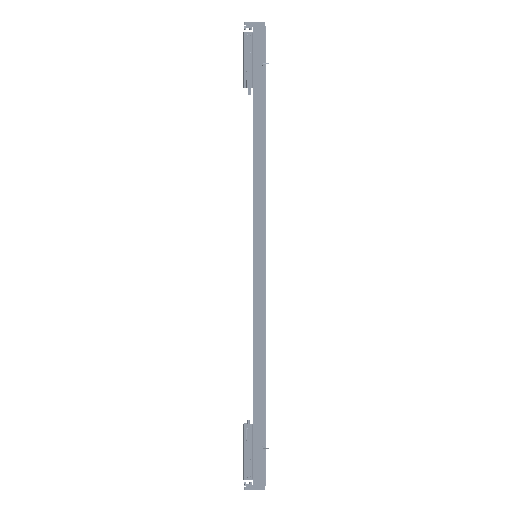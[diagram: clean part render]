
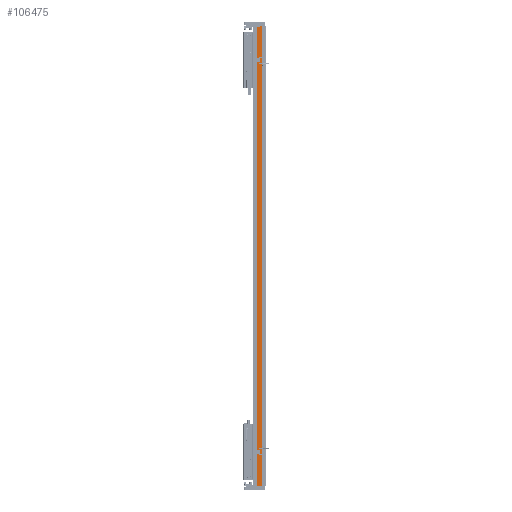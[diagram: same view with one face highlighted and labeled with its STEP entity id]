
A CAD part, left-side view. The second image highlights one B-rep face of the part: STEP entity #106475.
In plain terms, the highlighted planar face has unit normal (-1, 0, 0).
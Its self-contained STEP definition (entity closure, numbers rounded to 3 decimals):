
#2216 = DIRECTION ( 'NONE',  ( 0., -1., 0. ) ) ;
#5030 = EDGE_CURVE ( 'NONE', #30455, #17741, #72155, .T. ) ;
#5045 = ORIENTED_EDGE ( 'NONE', *, *, #5030, .F. ) ;
#6462 = EDGE_CURVE ( 'NONE', #108444, #17741, #64681, .T. ) ;
#8840 = DIRECTION ( 'NONE',  ( 0., 1., 0. ) ) ;
#11202 = ORIENTED_EDGE ( 'NONE', *, *, #92640, .T. ) ;
#17741 = VERTEX_POINT ( 'NONE', #27292 ) ;
#18996 = CARTESIAN_POINT ( 'NONE',  ( -82.5, 36.95, 1020. ) ) ;
#19073 = LINE ( 'NONE', #60523, #50309 ) ;
#20370 = CARTESIAN_POINT ( 'NONE',  ( -82.5, 14.45, 1020. ) ) ;
#20958 = LINE ( 'NONE', #103790, #103002 ) ;
#27292 = CARTESIAN_POINT ( 'NONE',  ( -82.5, 14.45, -1020. ) ) ;
#30455 = VERTEX_POINT ( 'NONE', #20370 ) ;
#40784 = FACE_OUTER_BOUND ( 'NONE', #81049, .T. ) ;
#42036 = DIRECTION ( 'NONE',  ( 0., -1., 0. ) ) ;
#50309 = VECTOR ( 'NONE', #101909, 1000. ) ;
#57174 = ORIENTED_EDGE ( 'NONE', *, *, #113455, .F. ) ;
#58551 = VECTOR ( 'NONE', #133956, 1000. ) ;
#60523 = CARTESIAN_POINT ( 'NONE',  ( -82.5, 36.95, 1020. ) ) ;
#64681 = LINE ( 'NONE', #96567, #101851 ) ;
#69251 = VERTEX_POINT ( 'NONE', #83308 ) ;
#70624 = PLANE ( 'NONE',  #88788 ) ;
#72155 = LINE ( 'NONE', #132606, #58551 ) ;
#81049 = EDGE_LOOP ( 'NONE', ( #90390, #5045, #57174, #11202 ) ) ;
#82175 = DIRECTION ( 'NONE',  ( 1., 0., 0. ) ) ;
#83308 = CARTESIAN_POINT ( 'NONE',  ( -82.5, 36.95, 1020. ) ) ;
#87300 = CARTESIAN_POINT ( 'NONE',  ( -82.5, 36.95, -1020. ) ) ;
#88788 = AXIS2_PLACEMENT_3D ( 'NONE', #18996, #82175, #8840 ) ;
#90390 = ORIENTED_EDGE ( 'NONE', *, *, #6462, .T. ) ;
#92640 = EDGE_CURVE ( 'NONE', #69251, #108444, #19073, .T. ) ;
#96567 = CARTESIAN_POINT ( 'NONE',  ( -82.5, 36.95, -1020. ) ) ;
#101851 = VECTOR ( 'NONE', #2216, 1000. ) ;
#101909 = DIRECTION ( 'NONE',  ( 0., 0., -1. ) ) ;
#103002 = VECTOR ( 'NONE', #42036, 1000. ) ;
#103790 = CARTESIAN_POINT ( 'NONE',  ( -82.5, 36.95, 1020. ) ) ;
#106475 = ADVANCED_FACE ( 'NONE', ( #40784 ), #70624, .F. ) ;
#108444 = VERTEX_POINT ( 'NONE', #87300 ) ;
#113455 = EDGE_CURVE ( 'NONE', #69251, #30455, #20958, .T. ) ;
#132606 = CARTESIAN_POINT ( 'NONE',  ( -82.5, 14.45, 1020. ) ) ;
#133956 = DIRECTION ( 'NONE',  ( 0., 0., -1. ) ) ;
